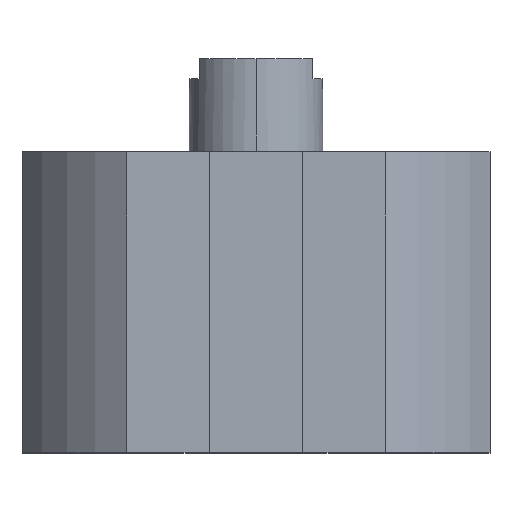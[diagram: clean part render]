
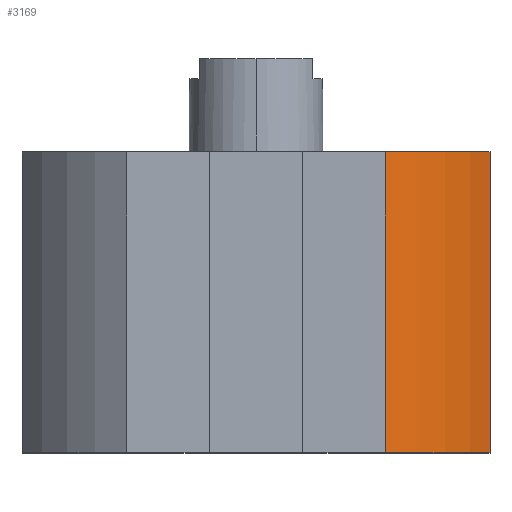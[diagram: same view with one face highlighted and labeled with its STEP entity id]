
A CAD part, top view. The second image highlights one B-rep face of the part: STEP entity #3169.
In plain terms, the highlighted cylindrical face has radius 40 mm (diameter 80 mm), a partial arc.
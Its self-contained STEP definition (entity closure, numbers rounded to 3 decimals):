
#88 = CARTESIAN_POINT ( 'NONE',  ( 35., 0., 19.365 ) ) ;
#188 = ORIENTED_EDGE ( 'NONE', *, *, #1332, .F. ) ;
#242 = DIRECTION ( 'NONE',  ( 0., 1., 0. ) ) ;
#245 = EDGE_CURVE ( 'NONE', #1829, #2678, #3234, .T. ) ;
#460 = VERTEX_POINT ( 'NONE', #2993 ) ;
#557 = DIRECTION ( 'NONE',  ( 0., 0., 1. ) ) ;
#561 = VERTEX_POINT ( 'NONE', #2258 ) ;
#786 = LINE ( 'NONE', #980, #2714 ) ;
#954 = CIRCLE ( 'NONE', #1464, 40. ) ;
#980 = CARTESIAN_POINT ( 'NONE',  ( 19.365, -45., 35. ) ) ;
#1098 = DIRECTION ( 'NONE',  ( 0., 0., 1. ) ) ;
#1146 = VECTOR ( 'NONE', #1947, 1000. ) ;
#1238 = FACE_OUTER_BOUND ( 'NONE', #1463, .T. ) ;
#1330 = CARTESIAN_POINT ( 'NONE',  ( 35., -45., 19.365 ) ) ;
#1332 = EDGE_CURVE ( 'NONE', #460, #561, #786, .T. ) ;
#1397 = EDGE_CURVE ( 'NONE', #460, #1829, #954, .T. ) ;
#1403 = AXIS2_PLACEMENT_3D ( 'NONE', #1835, #2582, #1098 ) ;
#1463 = EDGE_LOOP ( 'NONE', ( #1581, #188, #2790, #2686 ) ) ;
#1464 = AXIS2_PLACEMENT_3D ( 'NONE', #1746, #2490, #2477 ) ;
#1581 = ORIENTED_EDGE ( 'NONE', *, *, #1783, .F. ) ;
#1746 = CARTESIAN_POINT ( 'NONE',  ( 0., -45., 0. ) ) ;
#1783 = EDGE_CURVE ( 'NONE', #561, #2678, #2745, .T. ) ;
#1815 = CARTESIAN_POINT ( 'NONE',  ( 0., 0., 0. ) ) ;
#1829 = VERTEX_POINT ( 'NONE', #1330 ) ;
#1835 = CARTESIAN_POINT ( 'NONE',  ( 0., -45., 0. ) ) ;
#1947 = DIRECTION ( 'NONE',  ( 0., 1., 0. ) ) ;
#2079 = DIRECTION ( 'NONE',  ( 0., 1., 0. ) ) ;
#2258 = CARTESIAN_POINT ( 'NONE',  ( 19.365, 0., 35. ) ) ;
#2477 = DIRECTION ( 'NONE',  ( 0., 0., 1. ) ) ;
#2490 = DIRECTION ( 'NONE',  ( 0., 1., 0. ) ) ;
#2493 = AXIS2_PLACEMENT_3D ( 'NONE', #1815, #2079, #557 ) ;
#2582 = DIRECTION ( 'NONE',  ( 0., 1., 0. ) ) ;
#2678 = VERTEX_POINT ( 'NONE', #88 ) ;
#2686 = ORIENTED_EDGE ( 'NONE', *, *, #245, .T. ) ;
#2714 = VECTOR ( 'NONE', #242, 1000. ) ;
#2721 = CARTESIAN_POINT ( 'NONE',  ( 35., -45., 19.365 ) ) ;
#2745 = CIRCLE ( 'NONE', #2493, 40. ) ;
#2790 = ORIENTED_EDGE ( 'NONE', *, *, #1397, .T. ) ;
#2993 = CARTESIAN_POINT ( 'NONE',  ( 19.365, -45., 35. ) ) ;
#3165 = CYLINDRICAL_SURFACE ( 'NONE', #1403, 40. ) ;
#3169 = ADVANCED_FACE ( 'NONE', ( #1238 ), #3165, .T. ) ;
#3234 = LINE ( 'NONE', #2721, #1146 ) ;
